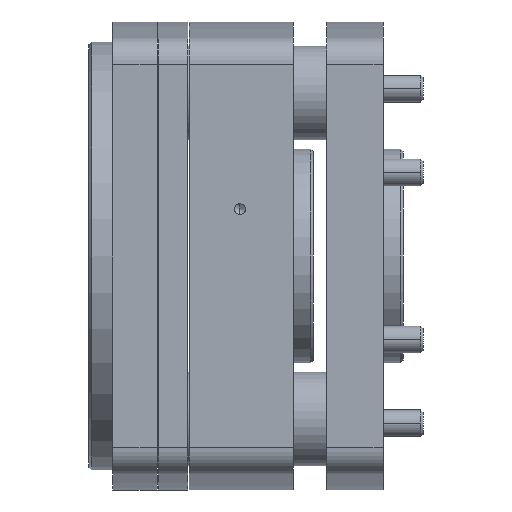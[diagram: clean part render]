
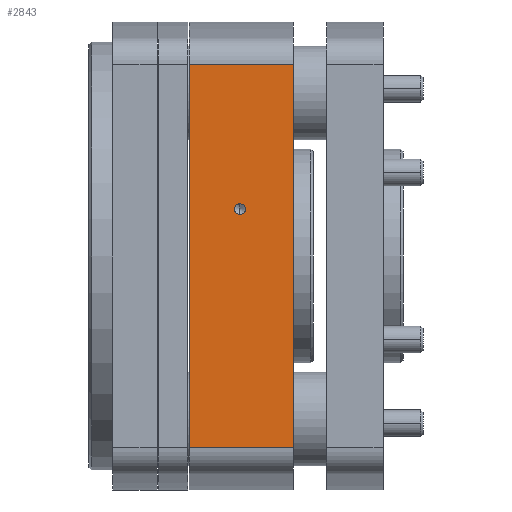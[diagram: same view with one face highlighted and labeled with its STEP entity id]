
A CAD part, left-side view. The second image highlights one B-rep face of the part: STEP entity #2843.
In plain terms, the highlighted planar face has unit normal (-1, 0, 0).
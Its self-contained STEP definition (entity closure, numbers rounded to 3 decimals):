
#1 = DIRECTION ( 'NONE',  ( 0., 0., -1. ) ) ;
#66 = CARTESIAN_POINT ( 'NONE',  ( -80., -37.5, -71.631 ) ) ;
#94 = EDGE_CURVE ( 'NONE', #12526, #12858, #8638, .T. ) ;
#232 = VERTEX_POINT ( 'NONE', #11270 ) ;
#634 = CARTESIAN_POINT ( 'NONE',  ( -80., -56.5, 15.433 ) ) ;
#685 = DIRECTION ( 'NONE',  ( 0., 0., 1. ) ) ;
#922 = CARTESIAN_POINT ( 'NONE',  ( -80., -76.5, 71.631 ) ) ;
#1011 = CARTESIAN_POINT ( 'NONE',  ( -80., -76.5, 71.631 ) ) ;
#1140 = DIRECTION ( 'NONE',  ( -1., 0., 0. ) ) ;
#2046 = VECTOR ( 'NONE', #7798, 1000. ) ;
#2228 = CARTESIAN_POINT ( 'NONE',  ( -80., -56.5, 17.5 ) ) ;
#2337 = DIRECTION ( 'NONE',  ( 1., 0., 0. ) ) ;
#2532 = CARTESIAN_POINT ( 'NONE',  ( -80., -56.5, 17.5 ) ) ;
#2541 = ORIENTED_EDGE ( 'NONE', *, *, #15591, .F. ) ;
#2843 = ADVANCED_FACE ( 'NONE', ( #6099, #3201 ), #3539, .T. ) ;
#3201 = FACE_BOUND ( 'NONE', #4714, .T. ) ;
#3260 = VERTEX_POINT ( 'NONE', #8220 ) ;
#3397 = EDGE_CURVE ( 'NONE', #9765, #232, #14543, .T. ) ;
#3539 = PLANE ( 'NONE',  #13084 ) ;
#3616 = VECTOR ( 'NONE', #14248, 1000. ) ;
#4148 = EDGE_CURVE ( 'NONE', #12858, #14641, #10306, .T. ) ;
#4666 = AXIS2_PLACEMENT_3D ( 'NONE', #2532, #9951, #11142 ) ;
#4714 = EDGE_LOOP ( 'NONE', ( #13875, #6280 ) ) ;
#4948 = EDGE_CURVE ( 'NONE', #232, #9765, #11625, .T. ) ;
#5610 = AXIS2_PLACEMENT_3D ( 'NONE', #2228, #2337, #1 ) ;
#5693 = ORIENTED_EDGE ( 'NONE', *, *, #4148, .T. ) ;
#6045 = EDGE_CURVE ( 'NONE', #14641, #3260, #14674, .T. ) ;
#6099 = FACE_OUTER_BOUND ( 'NONE', #11692, .T. ) ;
#6280 = ORIENTED_EDGE ( 'NONE', *, *, #4948, .T. ) ;
#7060 = CARTESIAN_POINT ( 'NONE',  ( -80., -76.5, -71.631 ) ) ;
#7211 = CARTESIAN_POINT ( 'NONE',  ( -80., -76.5, -80. ) ) ;
#7496 = VECTOR ( 'NONE', #685, 1000. ) ;
#7798 = DIRECTION ( 'NONE',  ( 0., 0., 1. ) ) ;
#8220 = CARTESIAN_POINT ( 'NONE',  ( -80., -37.5, 71.631 ) ) ;
#8311 = DIRECTION ( 'NONE',  ( 0., 1., 0. ) ) ;
#8638 = LINE ( 'NONE', #7060, #3616 ) ;
#9765 = VERTEX_POINT ( 'NONE', #634 ) ;
#9951 = DIRECTION ( 'NONE',  ( 1., 0., 0. ) ) ;
#10306 = LINE ( 'NONE', #11542, #2046 ) ;
#10636 = VECTOR ( 'NONE', #8311, 1000. ) ;
#11142 = DIRECTION ( 'NONE',  ( 0., 0., -1. ) ) ;
#11270 = CARTESIAN_POINT ( 'NONE',  ( -80., -56.5, 19.567 ) ) ;
#11517 = CARTESIAN_POINT ( 'NONE',  ( -80., -76.5, -71.631 ) ) ;
#11542 = CARTESIAN_POINT ( 'NONE',  ( -80., -76.5, -80. ) ) ;
#11625 = CIRCLE ( 'NONE', #5610, 2.067 ) ;
#11692 = EDGE_LOOP ( 'NONE', ( #2541, #11978, #5693, #12788 ) ) ;
#11978 = ORIENTED_EDGE ( 'NONE', *, *, #94, .T. ) ;
#12140 = DIRECTION ( 'NONE',  ( 0., 0., 1. ) ) ;
#12526 = VERTEX_POINT ( 'NONE', #66 ) ;
#12788 = ORIENTED_EDGE ( 'NONE', *, *, #6045, .T. ) ;
#12858 = VERTEX_POINT ( 'NONE', #11517 ) ;
#13084 = AXIS2_PLACEMENT_3D ( 'NONE', #7211, #1140, #12140 ) ;
#13788 = CARTESIAN_POINT ( 'NONE',  ( -80., -37.5, 342.917 ) ) ;
#13875 = ORIENTED_EDGE ( 'NONE', *, *, #3397, .T. ) ;
#14000 = LINE ( 'NONE', #13788, #7496 ) ;
#14248 = DIRECTION ( 'NONE',  ( 0., -1., 0. ) ) ;
#14543 = CIRCLE ( 'NONE', #4666, 2.067 ) ;
#14641 = VERTEX_POINT ( 'NONE', #922 ) ;
#14674 = LINE ( 'NONE', #1011, #10636 ) ;
#15591 = EDGE_CURVE ( 'NONE', #12526, #3260, #14000, .T. ) ;
